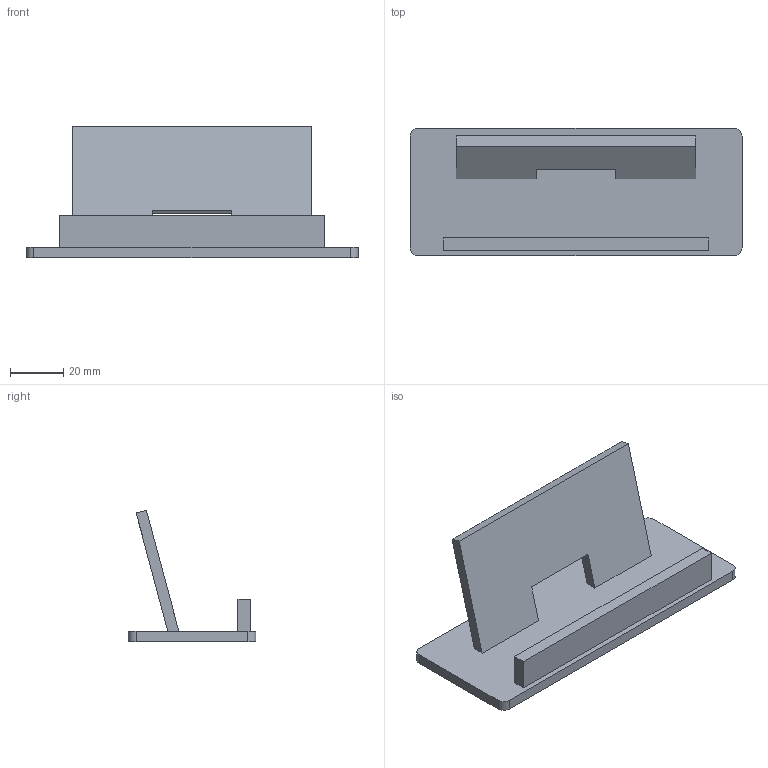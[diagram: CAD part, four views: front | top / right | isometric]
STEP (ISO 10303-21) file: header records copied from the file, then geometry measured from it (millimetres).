
FILE_DESCRIPTION(('Open CASCADE Model'),'2;1');
FILE_NAME('Open CASCADE Shape Model','2026-09-29T12:47:59',('Author'),( 'Open CASCADE'),'Open CASCADE STEP processor 7.9','Open CASCADE 7.9' ,'Unknown');
FILE_SCHEMA(('AUTOMOTIVE_DESIGN { 1 0 10303 214 1 1 1 1 }'));
Length unit declared in the file: millimetre
Products named in the file (1): Open CASCADE STEP translator 7.9 10
Bounding box: 125 x 48.04 x 49.55 mm (x, y, z)
Volume: 44816.3 mm3; surface area: 24176 mm2
Topology: 1 solids, 1 shells, 23 faces, 60 edges, 40 vertices
Faces by surface type: plane 19, cylinder 4
Entity records: 1484 total; most frequent: CARTESIAN_POINT 292, DIRECTION 208, LINE 140, VECTOR 140, ORIENTED_EDGE 120, PCURVE 120, DEFINITIONAL_REPRESENTATION 120, EDGE_CURVE 60
